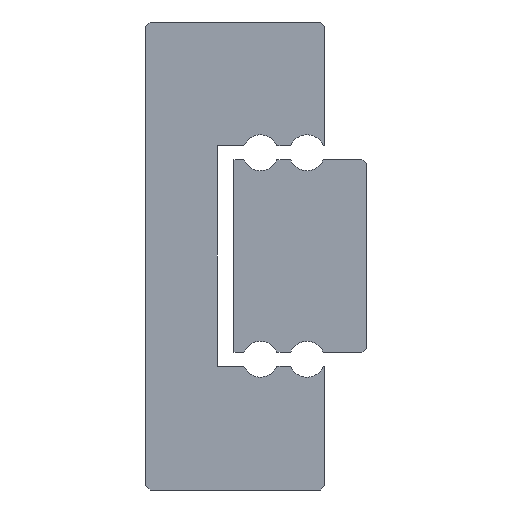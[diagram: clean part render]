
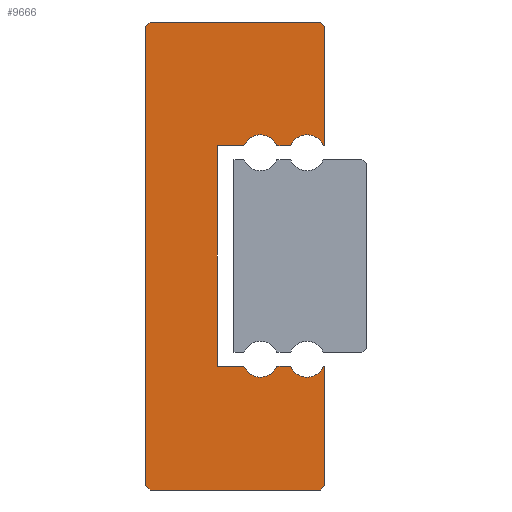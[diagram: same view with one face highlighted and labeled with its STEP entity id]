
A CAD part, left-side view. The second image highlights one B-rep face of the part: STEP entity #9666.
In plain terms, the highlighted planar face has unit normal (-1, 0, 0).
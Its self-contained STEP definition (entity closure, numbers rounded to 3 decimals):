
#326=CIRCLE('',#10510,0.65);
#328=CIRCLE('',#10514,0.65);
#330=CIRCLE('',#10520,0.65);
#332=CIRCLE('',#10524,0.65);
#1647=ORIENTED_EDGE('',*,*,#4042,.F.);
#1648=ORIENTED_EDGE('',*,*,#4496,.F.);
#1649=ORIENTED_EDGE('',*,*,#4493,.F.);
#1650=ORIENTED_EDGE('',*,*,#4476,.F.);
#1651=ORIENTED_EDGE('',*,*,#4473,.F.);
#1652=ORIENTED_EDGE('',*,*,#4470,.F.);
#1653=ORIENTED_EDGE('',*,*,#4467,.F.);
#1654=ORIENTED_EDGE('',*,*,#4464,.F.);
#1655=ORIENTED_EDGE('',*,*,#4461,.T.);
#1656=ORIENTED_EDGE('',*,*,#4458,.F.);
#1657=ORIENTED_EDGE('',*,*,#4455,.T.);
#1658=ORIENTED_EDGE('',*,*,#4452,.F.);
#1659=ORIENTED_EDGE('',*,*,#4449,.F.);
#1660=ORIENTED_EDGE('',*,*,#4446,.F.);
#1661=ORIENTED_EDGE('',*,*,#4443,.T.);
#1662=ORIENTED_EDGE('',*,*,#4440,.F.);
#1663=ORIENTED_EDGE('',*,*,#4437,.T.);
#1664=ORIENTED_EDGE('',*,*,#4434,.F.);
#1665=ORIENTED_EDGE('',*,*,#4431,.F.);
#1666=ORIENTED_EDGE('',*,*,#4428,.F.);
#4042=EDGE_CURVE('',#5506,#5507,#6498,.T.);
#4428=EDGE_CURVE('',#5507,#5892,#6636,.T.);
#4431=EDGE_CURVE('',#5892,#5894,#6639,.T.);
#4434=EDGE_CURVE('',#5894,#5896,#6642,.T.);
#4437=EDGE_CURVE('',#5898,#5896,#326,.T.);
#4440=EDGE_CURVE('',#5898,#5900,#6646,.T.);
#4443=EDGE_CURVE('',#5902,#5900,#328,.T.);
#4446=EDGE_CURVE('',#5902,#5904,#6650,.T.);
#4449=EDGE_CURVE('',#5904,#5906,#6653,.T.);
#4452=EDGE_CURVE('',#5906,#5908,#6656,.T.);
#4455=EDGE_CURVE('',#5910,#5908,#330,.T.);
#4458=EDGE_CURVE('',#5910,#5912,#6660,.T.);
#4461=EDGE_CURVE('',#5914,#5912,#332,.T.);
#4464=EDGE_CURVE('',#5914,#5916,#6664,.T.);
#4467=EDGE_CURVE('',#5916,#5918,#6667,.T.);
#4470=EDGE_CURVE('',#5918,#5920,#6670,.T.);
#4473=EDGE_CURVE('',#5920,#5922,#6673,.T.);
#4476=EDGE_CURVE('',#5922,#5924,#6676,.T.);
#4493=EDGE_CURVE('',#5924,#5940,#6679,.T.);
#4496=EDGE_CURVE('',#5940,#5506,#6682,.T.);
#5506=VERTEX_POINT('',#14823);
#5507=VERTEX_POINT('',#14824);
#5892=VERTEX_POINT('',#15596);
#5894=VERTEX_POINT('',#15602);
#5896=VERTEX_POINT('',#15608);
#5898=VERTEX_POINT('',#15614);
#5900=VERTEX_POINT('',#15620);
#5902=VERTEX_POINT('',#15626);
#5904=VERTEX_POINT('',#15632);
#5906=VERTEX_POINT('',#15638);
#5908=VERTEX_POINT('',#15644);
#5910=VERTEX_POINT('',#15650);
#5912=VERTEX_POINT('',#15656);
#5914=VERTEX_POINT('',#15662);
#5916=VERTEX_POINT('',#15668);
#5918=VERTEX_POINT('',#15674);
#5920=VERTEX_POINT('',#15680);
#5922=VERTEX_POINT('',#15686);
#5924=VERTEX_POINT('',#15692);
#5940=VERTEX_POINT('',#15726);
#6498=LINE('',#14822,#7314);
#6636=LINE('',#15595,#7452);
#6639=LINE('',#15601,#7455);
#6642=LINE('',#15607,#7458);
#6646=LINE('',#15619,#7462);
#6650=LINE('',#15631,#7466);
#6653=LINE('',#15637,#7469);
#6656=LINE('',#15643,#7472);
#6660=LINE('',#15655,#7476);
#6664=LINE('',#15667,#7480);
#6667=LINE('',#15673,#7483);
#6670=LINE('',#15679,#7486);
#6673=LINE('',#15685,#7489);
#6676=LINE('',#15691,#7492);
#6679=LINE('',#15725,#7495);
#6682=LINE('',#15731,#7498);
#7314=VECTOR('',#11573,1000.);
#7452=VECTOR('',#12209,1000.);
#7455=VECTOR('',#12214,1000.);
#7458=VECTOR('',#12219,1000.);
#7462=VECTOR('',#12231,1000.);
#7466=VECTOR('',#12243,1000.);
#7469=VECTOR('',#12248,1000.);
#7472=VECTOR('',#12253,1000.);
#7476=VECTOR('',#12265,1000.);
#7480=VECTOR('',#12277,1000.);
#7483=VECTOR('',#12282,1000.);
#7486=VECTOR('',#12287,1000.);
#7489=VECTOR('',#12292,1000.);
#7492=VECTOR('',#12297,1000.);
#7495=VECTOR('',#12330,1000.);
#7498=VECTOR('',#12335,1000.);
#8202=EDGE_LOOP('',(#1647,#1648,#1649,#1650,#1651,#1652,#1653,#1654,#1655,
#1656,#1657,#1658,#1659,#1660,#1661,#1662,#1663,#1664,#1665,#1666));
#8853=FACE_BOUND('',#8202,.T.);
#9426=PLANE('',#10548);
#9666=ADVANCED_FACE('',(#8853),#9426,.F.);
#10510=AXIS2_PLACEMENT_3D('',#15613,#12224,#12225);
#10514=AXIS2_PLACEMENT_3D('',#15625,#12236,#12237);
#10520=AXIS2_PLACEMENT_3D('',#15649,#12258,#12259);
#10524=AXIS2_PLACEMENT_3D('',#15661,#12270,#12271);
#10548=AXIS2_PLACEMENT_3D('',#15734,#12339,#12340);
#11573=DIRECTION('',(0.,-1.,0.));
#12209=DIRECTION('',(0.,-0.707,-0.707));
#12214=DIRECTION('',(0.,0.,-1.));
#12219=DIRECTION('',(0.,1.,0.));
#12224=DIRECTION('',(1.,0.,0.));
#12225=DIRECTION('',(0.,0.,-1.));
#12231=DIRECTION('',(0.,1.,0.));
#12236=DIRECTION('',(1.,0.,0.));
#12237=DIRECTION('',(0.,0.,-1.));
#12243=DIRECTION('',(0.,1.,0.));
#12248=DIRECTION('',(0.,0.,-1.));
#12253=DIRECTION('',(0.,-1.,0.));
#12258=DIRECTION('',(1.,0.,0.));
#12259=DIRECTION('',(0.,0.,-1.));
#12265=DIRECTION('',(0.,-1.,0.));
#12270=DIRECTION('',(1.,0.,0.));
#12271=DIRECTION('',(0.,0.,-1.));
#12277=DIRECTION('',(0.,-1.,0.));
#12282=DIRECTION('',(0.,0.,-1.));
#12287=DIRECTION('',(0.,0.707,-0.707));
#12292=DIRECTION('',(0.,1.,0.));
#12297=DIRECTION('',(0.,0.707,0.707));
#12330=DIRECTION('',(0.,0.,1.));
#12335=DIRECTION('',(0.,-0.707,0.707));
#12339=DIRECTION('',(1.,0.,0.));
#12340=DIRECTION('',(0.,0.,-1.));
#14822=CARTESIAN_POINT('',(-40.,6.35,8.5));
#14823=CARTESIAN_POINT('',(-40.,6.35,8.5));
#14824=CARTESIAN_POINT('',(-40.,0.15,8.5));
#15595=CARTESIAN_POINT('',(-40.,0.15,8.5));
#15596=CARTESIAN_POINT('',(-40.,0.,8.35));
#15601=CARTESIAN_POINT('',(-40.,0.,8.35));
#15602=CARTESIAN_POINT('',(-40.,0.,4.));
#15607=CARTESIAN_POINT('',(-40.,0.,4.));
#15608=CARTESIAN_POINT('',(-40.,0.05,4.));
#15613=CARTESIAN_POINT('',(-40.,0.65,3.75));
#15614=CARTESIAN_POINT('',(-40.,1.25,4.));
#15619=CARTESIAN_POINT('',(-40.,1.25,4.));
#15620=CARTESIAN_POINT('',(-40.,1.74,4.));
#15625=CARTESIAN_POINT('',(-40.,2.34,3.75));
#15626=CARTESIAN_POINT('',(-40.,2.94,4.));
#15631=CARTESIAN_POINT('',(-40.,2.94,4.));
#15632=CARTESIAN_POINT('',(-40.,3.9,4.));
#15637=CARTESIAN_POINT('',(-40.,3.9,4.));
#15638=CARTESIAN_POINT('',(-40.,3.9,-4.));
#15643=CARTESIAN_POINT('',(-40.,3.9,-4.));
#15644=CARTESIAN_POINT('',(-40.,2.94,-4.));
#15649=CARTESIAN_POINT('',(-40.,2.34,-3.75));
#15650=CARTESIAN_POINT('',(-40.,1.74,-4.));
#15655=CARTESIAN_POINT('',(-40.,1.74,-4.));
#15656=CARTESIAN_POINT('',(-40.,1.25,-4.));
#15661=CARTESIAN_POINT('',(-40.,0.65,-3.75));
#15662=CARTESIAN_POINT('',(-40.,0.05,-4.));
#15667=CARTESIAN_POINT('',(-40.,0.05,-4.));
#15668=CARTESIAN_POINT('',(-40.,0.,-4.));
#15673=CARTESIAN_POINT('',(-40.,0.,-4.));
#15674=CARTESIAN_POINT('',(-40.,0.,-8.35));
#15679=CARTESIAN_POINT('',(-40.,0.,-8.35));
#15680=CARTESIAN_POINT('',(-40.,0.15,-8.5));
#15685=CARTESIAN_POINT('',(-40.,0.15,-8.5));
#15686=CARTESIAN_POINT('',(-40.,6.35,-8.5));
#15691=CARTESIAN_POINT('',(-40.,6.35,-8.5));
#15692=CARTESIAN_POINT('',(-40.,6.5,-8.35));
#15725=CARTESIAN_POINT('',(-40.,6.5,-8.35));
#15726=CARTESIAN_POINT('',(-40.,6.5,8.35));
#15731=CARTESIAN_POINT('',(-40.,6.5,8.35));
#15734=CARTESIAN_POINT('',(-40.,0.65,3.75));
